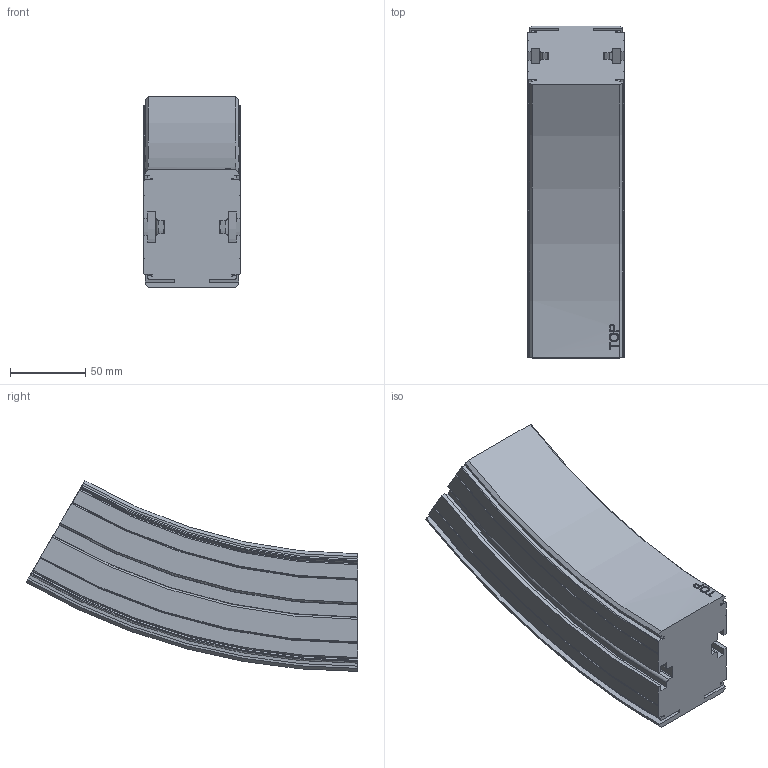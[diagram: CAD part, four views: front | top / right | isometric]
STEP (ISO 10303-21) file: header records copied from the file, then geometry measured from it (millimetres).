
FILE_DESCRIPTION(/* description */ ('VERTIKALKURVA S620 R400'),/* implementation_level */ '2;1');
FILE_NAME(/* name */ '\\carryline.intra\privat\users\mathias\Desktop\Tillfälliga filer\620-5645+620-2000-UPP-01.stp',/* time_stamp */ '2018-12-05T16:03:58+01:00',/* author */ ('MD'),/* organization */ ('CARRYLINE'),/* preprocessor_version */ 'ST-DEVELOPER v17',/* originating_system */ 'Autodesk Inventor 2018',/* authorisation */ '');
FILE_SCHEMA (('AUTOMOTIVE_DESIGN { 1 0 10303 214 3 1 1 }'));
Length unit declared in the file: millimetre
Products named in the file (1): 620-5645+620-2000-UPP-01
Bounding box: 64 x 220 x 126.5 mm (x, y, z)
Volume: 936086.2 mm3; surface area: 111019.1 mm2
Topology: 1 solids, 1 shells, 149 faces, 426 edges, 284 vertices
Faces by surface type: plane 54, cylinder 37, torus 28, cone 16, bspline 14
Entity records: 9533 total; most frequent: CARTESIAN_POINT 5513, ORIENTED_EDGE 852, DIRECTION 836, EDGE_CURVE 426, AXIS2_PLACEMENT_3D 315, VERTEX_POINT 284, LINE 206, VECTOR 206
